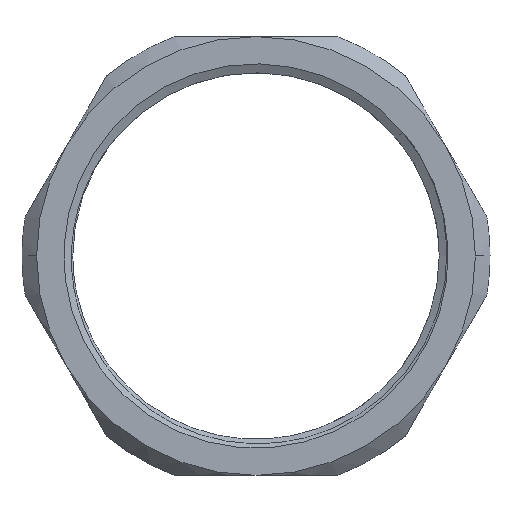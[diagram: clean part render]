
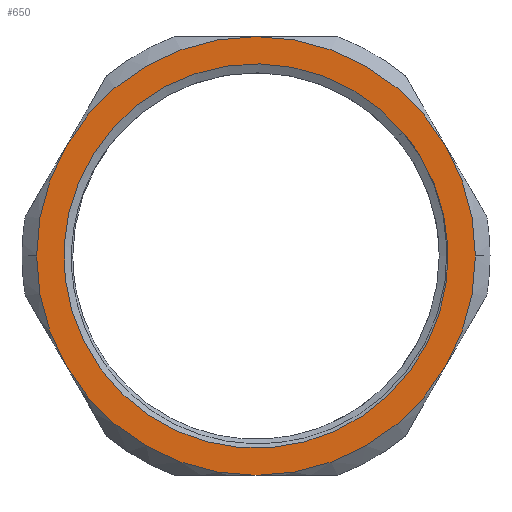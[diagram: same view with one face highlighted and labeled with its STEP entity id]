
A CAD part, left-side view. The second image highlights one B-rep face of the part: STEP entity #650.
In plain terms, the highlighted planar face has unit normal (-1, 0, 0).
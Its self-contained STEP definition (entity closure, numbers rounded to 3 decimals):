
#10=CARTESIAN_POINT('',(0.,-7.,0.));
#20=DIRECTION('',(-1.,0.,0.));
#30=DIRECTION('',(0.,-1.,0.));
#40=AXIS2_PLACEMENT_3D('',#10,#20,#30);
#50=PLANE('',#40);
#60=CARTESIAN_POINT('',(0.,0.,0.));
#70=DIRECTION('',(-1.,0.,0.));
#80=DIRECTION('',(0.,1.,0.));
#90=AXIS2_PLACEMENT_3D('',#60,#70,#80);
#100=CIRCLE('',#90,6.569);
#110=CARTESIAN_POINT('',(0.,-5.58,3.466));
#120=VERTEX_POINT('729754-1634606966-14cb19c6d37b-0 54309',#110);
#130=CARTESIAN_POINT('',(0.,-5.02,4.236));
#140=VERTEX_POINT('729754-1634606966-14cb19c6d37b-0 54355',#130);
#150=EDGE_CURVE('729754-1634606966-14cb19c6d37b-0 54356',#120,#140,#100,
.T.);
#160=ORIENTED_EDGE('',*,*,#150,.F.);
#170=CARTESIAN_POINT('',(0.,0.,0.));
#180=DIRECTION('',(1.,0.,0.));
#190=DIRECTION('',(0.,-1.,0.));
#200=AXIS2_PLACEMENT_3D('',#170,#180,#190);
#210=CIRCLE('',#200,6.569);
#220=EDGE_CURVE('729754-1634606966-14cb19c6d37b-0 54307',#120,#140,#210,
.T.);
#230=ORIENTED_EDGE('',*,*,#220,.T.);
#240=EDGE_LOOP('',(#230,#160));
#250=FACE_BOUND('',#240,.T.);
#260=CARTESIAN_POINT('',(0.,0.,0.));
#270=DIRECTION('',(-1.,0.,-0.));
#280=DIRECTION('',(0.,-1.,0.));
#290=AXIS2_PLACEMENT_3D('',#260,#270,#280);
#300=CIRCLE('',#290,7.5);
#310=CARTESIAN_POINT('',(0.,-6.495,
-3.75));
#320=VERTEX_POINT('729754-1634606966-14cb19c6d37b-0 54400',#310);
#330=CARTESIAN_POINT('',(0.,-7.5,0.
));
#340=VERTEX_POINT('',#330);
#350=EDGE_CURVE('729754-1634606966-14cb19c6d37b-0 54675',#320,#340,#300,
.T.);
#360=ORIENTED_EDGE('',*,*,#350,.T.);
#370=CARTESIAN_POINT('',(0.,0.,
-7.5));
#380=VERTEX_POINT('729754-1634606966-14cb19c6d37b-0 54423',#370);
#390=EDGE_CURVE('729754-1634606966-14cb19c6d37b-0 54673',#380,#320,#300,
.T.);
#400=ORIENTED_EDGE('',*,*,#390,.T.);
#410=CARTESIAN_POINT('',(0.,6.495,
-3.75));
#420=VERTEX_POINT('729754-1634606966-14cb19c6d37b-0 54460',#410);
#430=EDGE_CURVE('729754-1634606966-14cb19c6d37b-0 54671',#420,#380,#300,
.T.);
#440=ORIENTED_EDGE('',*,*,#430,.T.);
#450=CARTESIAN_POINT('',(0.,7.5,0.));
#460=VERTEX_POINT('',#450);
#470=EDGE_CURVE('729754-1634606966-14cb19c6d37b-0 54669',#460,#420,#300,
.T.);
#480=ORIENTED_EDGE('',*,*,#470,.T.);
#490=CARTESIAN_POINT('',(0.,6.495,
3.75));
#500=VERTEX_POINT('729754-1634606966-14cb19c6d37b-0 54481',#490);
#510=EDGE_CURVE('729754-1634606966-14cb19c6d37b-0 54669',#500,#460,#300,
.T.);
#520=ORIENTED_EDGE('',*,*,#510,.T.);
#530=CARTESIAN_POINT('',(0.,0.,7.5)
);
#540=VERTEX_POINT('729754-1634606966-14cb19c6d37b-0 54517',#530);
#550=EDGE_CURVE('729754-1634606966-14cb19c6d37b-0 54667',#540,#500,#300,
.T.);
#560=ORIENTED_EDGE('',*,*,#550,.T.);
#570=CARTESIAN_POINT('',(0.,-6.495,
3.75));
#580=VERTEX_POINT('729754-1634606966-14cb19c6d37b-0 54538',#570);
#590=EDGE_CURVE('729754-1634606966-14cb19c6d37b-0 54663',#580,#540,#300,
.T.);
#600=ORIENTED_EDGE('',*,*,#590,.T.);
#610=EDGE_CURVE('729754-1634606966-14cb19c6d37b-0 54675',#340,#580,#300,
.T.);
#620=ORIENTED_EDGE('',*,*,#610,.T.);
#630=EDGE_LOOP('',(#620,#600,#560,#520,#480,#440,#400,#360));
#640=FACE_OUTER_BOUND('',#630,.T.);
#650=ADVANCED_FACE('729754-1634606966-14cb19c6d37b-0 54302',(#250,#640),
#50,.T.);
